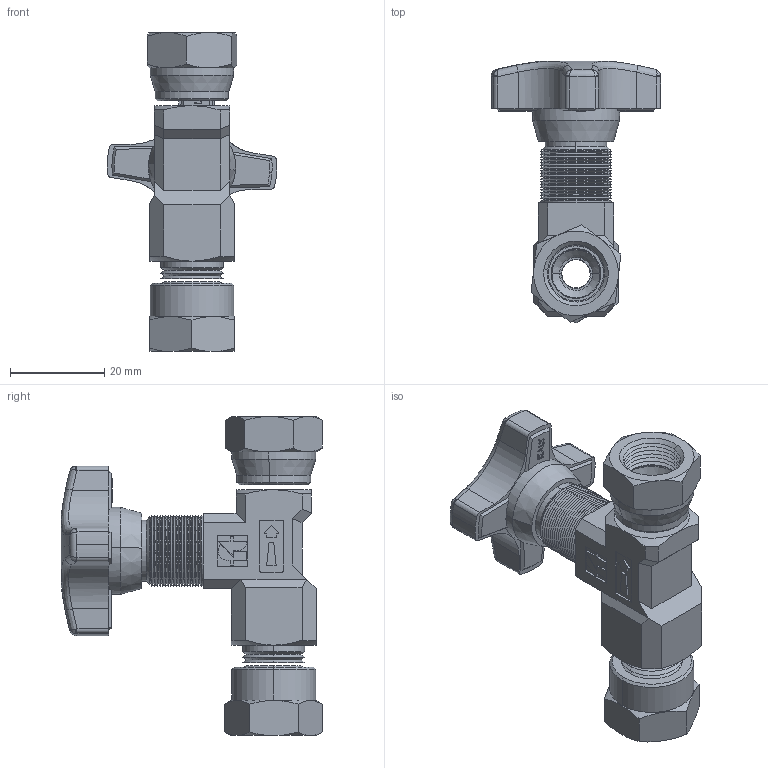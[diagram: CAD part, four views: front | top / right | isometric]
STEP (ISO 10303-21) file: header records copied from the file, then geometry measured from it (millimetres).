
FILE_DESCRIPTION (( 'STEP AP214' ), '1' );
FILE_NAME ('290-04-14.STEP', '2015-05-15T09:43:22', ( '' ), ( '' ), 'SwSTEP 2.0', 'SolidWorks 2014', '' );
FILE_SCHEMA (( 'AUTOMOTIVE_DESIGN' ));
Length unit declared in the file: millimetre
Products named in the file (1): 290-04-14
Bounding box: 35.99 x 55.47 x 67.66 mm (x, y, z)
Surface area: 10102.5 mm2 (no closed solid volume)
Topology: 0 solids, 14 shells, 559 faces, 1517 edges, 961 vertices
Faces by surface type: plane 265, cone 161, cylinder 70, bspline 52, torus 9, sphere 2
Entity records: 26166 total; most frequent: CARTESIAN_POINT 6346, ORIENTED_EDGE 2806, DIRECTION 2735, EDGE_CURVE 1509, VERTEX_POINT 961, VECTOR 915, LINE 915, AXIS2_PLACEMENT_3D 910
